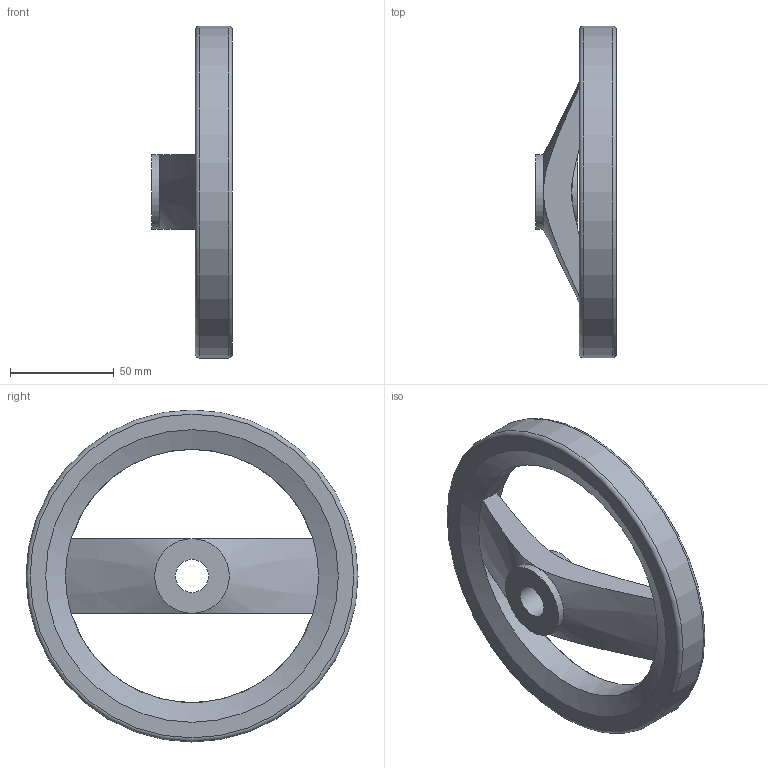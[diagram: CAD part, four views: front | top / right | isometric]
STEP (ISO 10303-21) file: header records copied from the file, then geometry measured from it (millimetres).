
FILE_DESCRIPTION( ( 'STEP AP203' ), '1' );
FILE_NAME( 'C:/Temp/Ganter_Step_05_03_2020/data/1_3/gn_324/gn_324_b/gn_324_b_a/Handwheel, matt black GN 324-160-B16-A.stp', '2020-03-05T10:32:54', ( 'License CC BY-ND 4.0' ), ( 'CADENAS' ), ' ', 'PARTsolutions', ' ' );
FILE_SCHEMA( ( 'CONFIG_CONTROL_DESIGN' ) );
Length unit declared in the file: millimetre
Products named in the file (1): _Handwheel, matt black GN 324-160-B16-A
Bounding box: 39 x 160 x 160 mm (x, y, z)
Volume: 197926 mm3; surface area: 43220.3 mm2
Topology: 1 solids, 1 shells, 19 faces, 43 edges, 24 vertices
Faces by surface type: plane 6, cone 6, cylinder 5, torus 2
Full cylindrical faces by diameter (mm): 16 x1, 36 x2, 122 x1, 160 x1
Entity records: 656 total; most frequent: CARTESIAN_POINT 220, DIRECTION 86, ORIENTED_EDGE 66, AXIS2_PLACEMENT_3D 41, EDGE_CURVE 33, EDGE_LOOP 32, FACE_OUTER_BOUND 26, VERTEX_POINT 23
